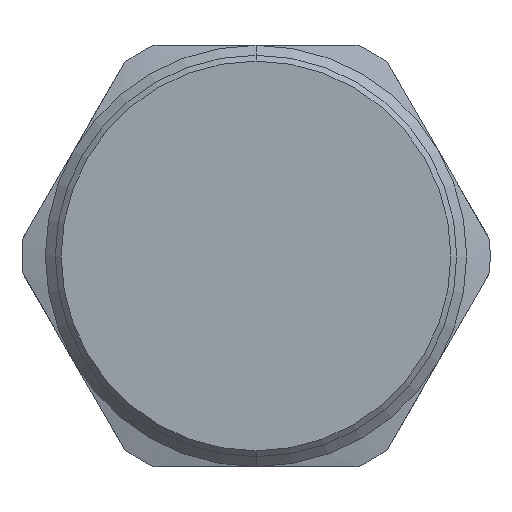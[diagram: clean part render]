
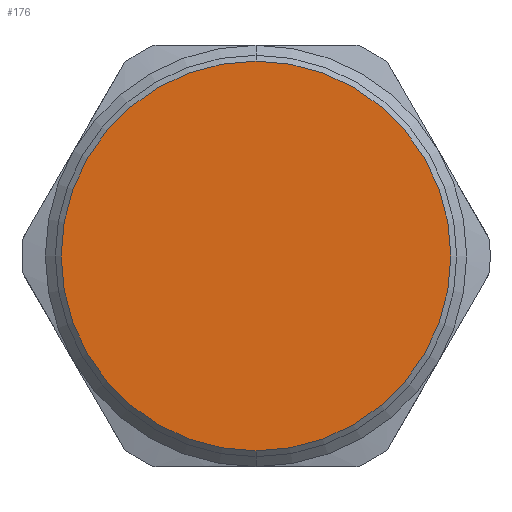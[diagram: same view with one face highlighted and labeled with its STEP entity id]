
A CAD part, front view. The second image highlights one B-rep face of the part: STEP entity #176.
In plain terms, the highlighted planar face has unit normal (0, -1, 0).
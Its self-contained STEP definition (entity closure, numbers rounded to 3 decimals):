
#151=CARTESIAN_POINT('',(0.0,-75.5,-16.65));
#152=VERTEX_POINT('',#151);
#153=CARTESIAN_POINT('',(0.0,-75.5,16.65));
#154=VERTEX_POINT('',#153);
#155=CARTESIAN_POINT('',(0.0,-75.5,0.0));
#156=DIRECTION('',(0.0,-1.0,0.0));
#157=DIRECTION('',(0.0,0.0,-1.0));
#158=AXIS2_PLACEMENT_3D('',#155,#156,#157);
#159=CIRCLE('',#158,16.65);
#160=EDGE_CURVE('no 707',#152,#154,#159,.T.);
#161=ORIENTED_EDGE('',*,*,#160,.T.);
#162=CARTESIAN_POINT('',(0.0,-75.5,0.0));
#163=DIRECTION('',(0.0,-1.0,0.0));
#164=DIRECTION('',(0.0,0.0,-1.0));
#165=AXIS2_PLACEMENT_3D('',#162,#163,#164);
#166=CIRCLE('',#165,16.65);
#167=EDGE_CURVE('no 711',#154,#152,#166,.T.);
#168=ORIENTED_EDGE('',*,*,#167,.T.);
#169=EDGE_LOOP('',(#161,#168));
#170=FACE_OUTER_BOUND('',#169,.T.);
#171=CARTESIAN_POINT('',(0.0,-75.5,0.0));
#172=DIRECTION('',(0.0,-1.0,0.0));
#173=DIRECTION('',(0.0,0.0,-1.0));
#174=AXIS2_PLACEMENT_3D('',#171,#172,#173);
#175=PLANE('',#174);
#176=ADVANCED_FACE('no 698',(#170),#175,.T.);
